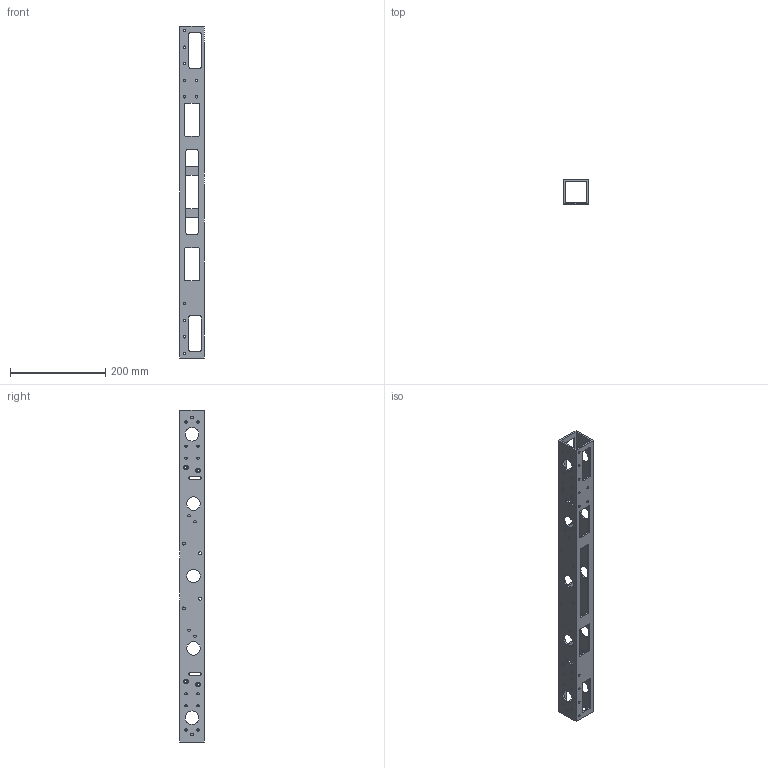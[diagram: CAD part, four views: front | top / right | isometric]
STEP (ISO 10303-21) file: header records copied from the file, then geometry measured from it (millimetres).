
FILE_DESCRIPTION((''),'2;1');
FILE_NAME('\\TSD\DFS$\TSHS\Staff\dcollins\Desktop\practice robot parts\chassis_side.stp','2012-07-23T20:59:00',('DCOLLINS'),(''),'Autodesk Inventor 2012','Autodesk Inventor 2012','');
FILE_SCHEMA(('AUTOMOTIVE_DESIGN { 1 0 10303 214 1 1 1 1 }'));
Length unit declared in the file: inch
Products named in the file (1): chassis_side
Bounding box: 50.8 x 50.8 x 698.5 mm (x, y, z)
Volume: 305047.7 mm3; surface area: 208998.2 mm2
Topology: 1 solids, 1 shells, 211 faces, 645 edges, 434 vertices
Faces by surface type: cylinder 135, plane 76
Full cylindrical faces by diameter (mm): 4.978 x51, 6.35 x4, 9.525 x4, 10.16 x2, 28.575 x10
Entity records: 7218 total; most frequent: DIRECTION 1252, CARTESIAN_POINT 1184, ORIENTED_EDGE 1112, EDGE_CURVE 556, AXIS2_PLACEMENT_3D 484, EDGE_LOOP 460, VERTEX_POINT 416, VECTOR 284
